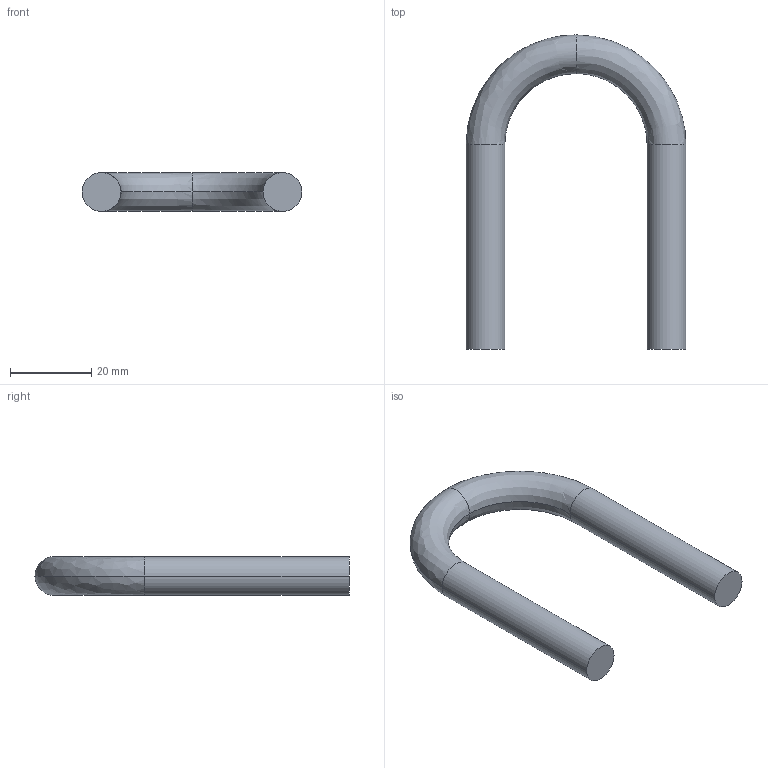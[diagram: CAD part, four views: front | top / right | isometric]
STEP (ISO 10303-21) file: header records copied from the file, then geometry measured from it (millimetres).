
FILE_DESCRIPTION(('TurboCAD Mac Pro'),'Build 980');
FILE_NAME('FUB-100.stp',' ',(''),(''),'ACIS Interop','IMSI','TurboCAD Mac Pro BY IMSI, INCORPORATED');
FILE_SCHEMA(('automotive_design'));
Length unit declared in the file: inch
Products named in the file (2): 1; 2
Bounding box: 53.98 x 77.15 x 9.53 mm (x, y, z)
Volume: 12116.3 mm3; surface area: 5232.8 mm2
Topology: 1 solids, 1 shells, 10 faces, 18 edges, 10 vertices
Faces by surface type: bspline 4, cylinder 4, plane 2
Entity records: 676 total; most frequent: CARTESIAN_POINT 330, DIRECTION 42, ORIENTED_EDGE 36, AXIS2_PLACEMENT_3D 18, EDGE_CURVE 18, STYLED_ITEM 15, PRESENTATION_STYLE_ASSIGNMENT 15, COLOUR_RGB 15
